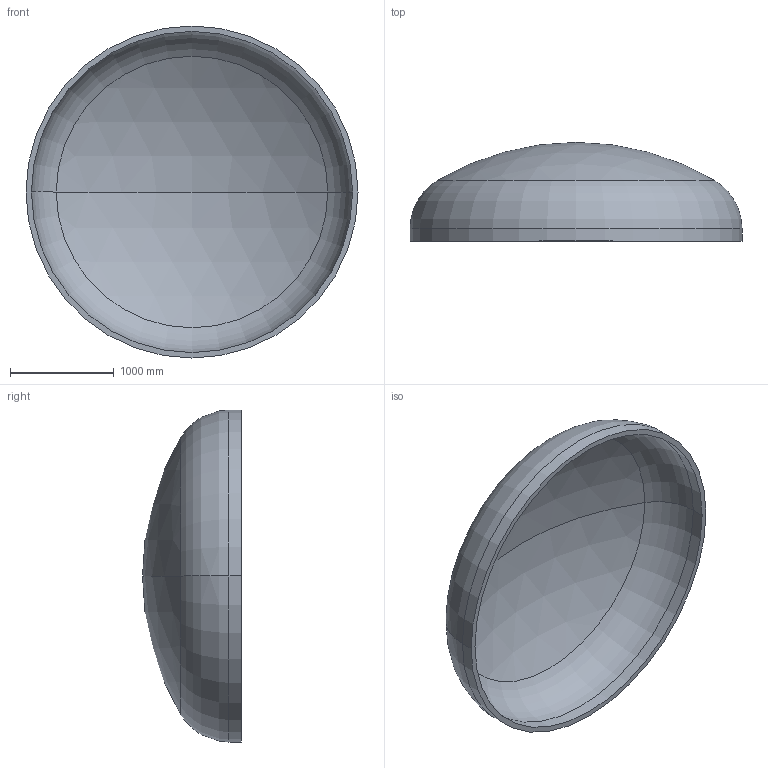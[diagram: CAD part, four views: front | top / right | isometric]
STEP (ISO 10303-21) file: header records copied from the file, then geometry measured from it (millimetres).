
FILE_DESCRIPTION (( 'STEP AP203' ), '1' );
FILE_NAME ('DIN 28013 Korbbogenform_-_Boden DIN 28013 - 3200 x 120 - I - s=52.step', '2016-07-01T18:43:16', ( '' ), ( '' ), 'SwSTEP 2.0', 'SolidWorks 2013', '' );
FILE_SCHEMA (( 'CONFIG_CONTROL_DESIGN' ));
Length unit declared in the file: millimetre
Products named in the file (1): DIN 28013 Korbbogenform_-_Boden DIN 28013 - 3200 x 120 - I - s=52
Bounding box: 3200 x 952.8 x 3200 mm (x, y, z)
Volume: 627999489.8 mm3; surface area: 24673747.4 mm2
Topology: 1 solids, 1 shells, 13 faces, 24 edges, 14 vertices
Faces by surface type: torus 4, cylinder 4, sphere 4, plane 1
Entity records: 407 total; most frequent: DIRECTION 72, CARTESIAN_POINT 52, ORIENTED_EDGE 48, AXIS2_PLACEMENT_3D 34, EDGE_CURVE 24, CIRCLE 20, EDGE_LOOP 14, VERTEX_POINT 14
